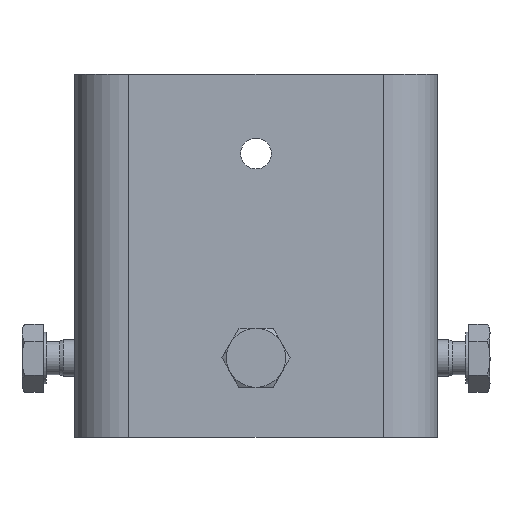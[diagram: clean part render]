
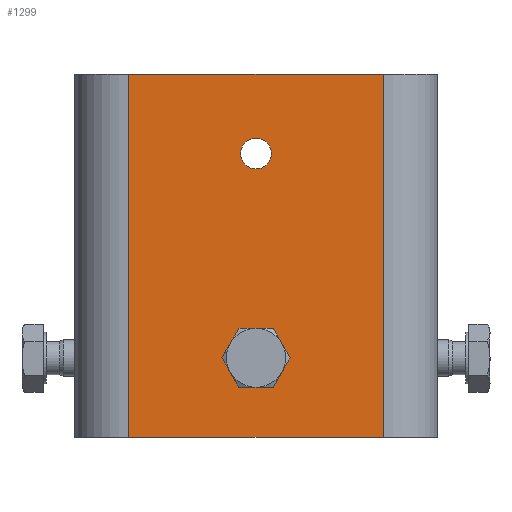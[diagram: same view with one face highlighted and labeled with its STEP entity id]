
A CAD part, top view. The second image highlights one B-rep face of the part: STEP entity #1299.
In plain terms, the highlighted planar face has unit normal (0, 0, 1).
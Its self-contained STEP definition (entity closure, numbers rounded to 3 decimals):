
#55=FACE_BOUND('',#184,.T.);
#56=FACE_BOUND('',#185,.T.);
#98=FACE_OUTER_BOUND('',#183,.T.);
#183=EDGE_LOOP('',(#881,#882,#883,#884));
#184=EDGE_LOOP('',(#885,#886));
#185=EDGE_LOOP('',(#887));
#284=LINE('',#2050,#395);
#286=LINE('',#2054,#397);
#287=LINE('',#2056,#398);
#288=LINE('',#2057,#399);
#395=VECTOR('',#1625,10.);
#397=VECTOR('',#1629,10.);
#398=VECTOR('',#1630,10.);
#399=VECTOR('',#1631,10.);
#504=CIRCLE('',#1452,3.324);
#505=CIRCLE('',#1453,3.324);
#506=CIRCLE('',#1454,3.4);
#569=VERTEX_POINT('',#2034);
#572=VERTEX_POINT('',#2041);
#574=VERTEX_POINT('',#2053);
#575=VERTEX_POINT('',#2055);
#576=VERTEX_POINT('',#2058);
#577=VERTEX_POINT('',#2059);
#578=VERTEX_POINT('',#2062);
#686=EDGE_CURVE('',#569,#572,#284,.T.);
#688=EDGE_CURVE('',#572,#574,#286,.T.);
#689=EDGE_CURVE('',#574,#575,#287,.T.);
#690=EDGE_CURVE('',#575,#569,#288,.T.);
#691=EDGE_CURVE('',#576,#577,#504,.T.);
#692=EDGE_CURVE('',#577,#576,#505,.T.);
#693=EDGE_CURVE('',#578,#578,#506,.T.);
#881=ORIENTED_EDGE('',*,*,#686,.T.);
#882=ORIENTED_EDGE('',*,*,#688,.T.);
#883=ORIENTED_EDGE('',*,*,#689,.T.);
#884=ORIENTED_EDGE('',*,*,#690,.T.);
#885=ORIENTED_EDGE('',*,*,#691,.T.);
#886=ORIENTED_EDGE('',*,*,#692,.T.);
#887=ORIENTED_EDGE('',*,*,#693,.T.);
#1245=PLANE('',#1451);
#1299=ADVANCED_FACE('',(#98,#55,#56),#1245,.T.);
#1451=AXIS2_PLACEMENT_3D('',#2052,#1627,#1628);
#1452=AXIS2_PLACEMENT_3D('',#2060,#1632,#1633);
#1453=AXIS2_PLACEMENT_3D('',#2061,#1634,#1635);
#1454=AXIS2_PLACEMENT_3D('',#2063,#1636,#1637);
#1625=DIRECTION('',(0.,1.,0.));
#1627=DIRECTION('center_axis',(0.,0.,1.));
#1628=DIRECTION('ref_axis',(1.,0.,0.));
#1629=DIRECTION('',(-1.,0.,0.));
#1630=DIRECTION('',(0.,-1.,0.));
#1631=DIRECTION('',(1.,0.,0.));
#1632=DIRECTION('center_axis',(0.,0.,-1.));
#1633=DIRECTION('ref_axis',(1.,0.,0.));
#1634=DIRECTION('center_axis',(0.,0.,-1.));
#1635=DIRECTION('ref_axis',(1.,0.,0.));
#1636=DIRECTION('center_axis',(0.,0.,-1.));
#1637=DIRECTION('ref_axis',(-1.,0.,0.));
#2034=CARTESIAN_POINT('',(28.,-40.,0.));
#2041=CARTESIAN_POINT('',(28.,40.,0.));
#2050=CARTESIAN_POINT('',(28.,20.,0.));
#2052=CARTESIAN_POINT('Origin',(108.335,0.,0.));
#2053=CARTESIAN_POINT('',(-28.,40.,0.));
#2054=CARTESIAN_POINT('',(113.679,40.,0.));
#2055=CARTESIAN_POINT('',(-28.,-40.,0.));
#2056=CARTESIAN_POINT('',(-28.,-20.,0.));
#2057=CARTESIAN_POINT('',(-113.679,-40.,0.));
#2058=CARTESIAN_POINT('',(3.324,-22.5,0.));
#2059=CARTESIAN_POINT('',(-3.324,-22.5,0.));
#2060=CARTESIAN_POINT('Origin',(0.,-22.5,0.));
#2061=CARTESIAN_POINT('Origin',(0.,-22.5,0.));
#2062=CARTESIAN_POINT('',(3.4,22.5,0.));
#2063=CARTESIAN_POINT('Origin',(0.,22.5,0.));
